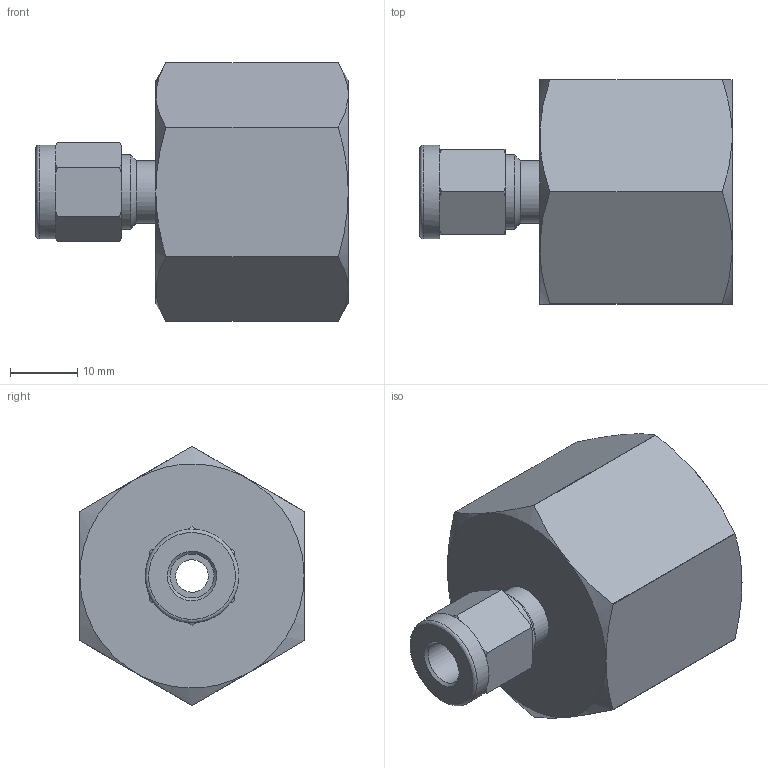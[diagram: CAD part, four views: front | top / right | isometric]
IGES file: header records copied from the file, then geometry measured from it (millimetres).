
Global section: file name: SFC-4-12N; native system: Autodesk Inventor 2016; preprocessor: unknown; author: 배성훈,,11,0; organization: 20151010.043050; date: 20151019.102312; units: millimetre
Bounding box: 46.44 x 33.33 x 38.45 mm (x, y, z)
Volume: 19451.9 mm3; surface area: 7786 mm2
Topology: 1 solids, 1 shells, 56 faces, 150 edges, 100 vertices
Faces by surface type: bspline 56
